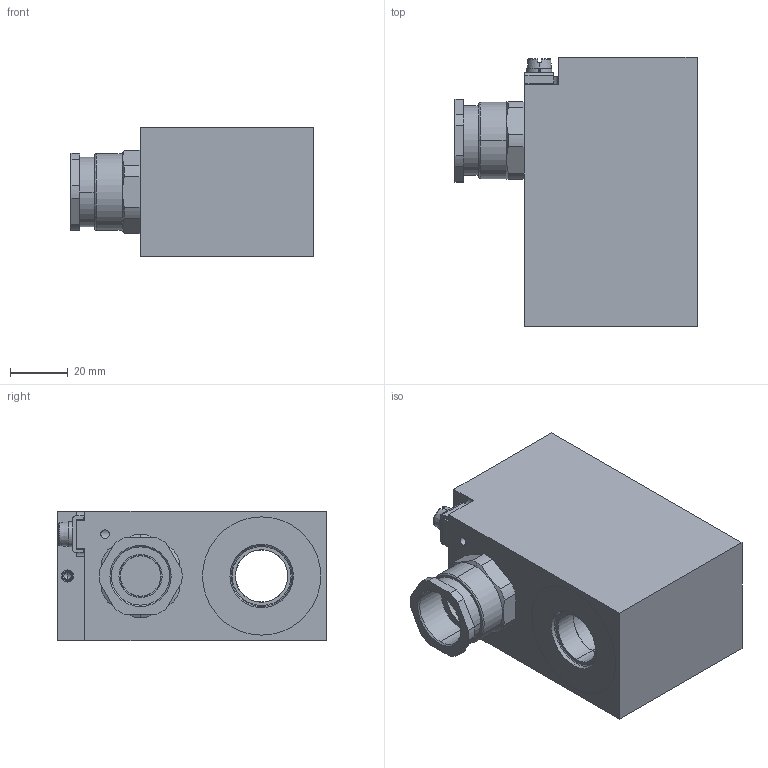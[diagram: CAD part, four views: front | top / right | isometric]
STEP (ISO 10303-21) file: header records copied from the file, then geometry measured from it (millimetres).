
FILE_DESCRIPTION (( 'STEP AP203' ), '1' );
FILE_NAME ('MKY45_18x60.step', '2013-07-09T12:34:38', ( 'Wandfluh AG' ), ( 'Wandfluh AG' ), 'SwSTEP 2.0', 'SolidWorks 2012', '' );
FILE_SCHEMA (( 'CONFIG_CONTROL_DESIGN' ));
Length unit declared in the file: millimetre
Products named in the file (1): MKY45_18x60
Bounding box: 83.95 x 93.3 x 45 mm (x, y, z)
Volume: 243426.3 mm3; surface area: 55889.4 mm2
Topology: 15 solids, 15 shells, 313 faces, 742 edges, 474 vertices
Faces by surface type: plane 138, cylinder 105, cone 48, torus 12, bspline 10
Entity records: 9607 total; most frequent: CARTESIAN_POINT 2140, DIRECTION 1627, ORIENTED_EDGE 1464, EDGE_CURVE 732, AXIS2_PLACEMENT_3D 636, VERTEX_POINT 472, EDGE_LOOP 362, LINE 355
